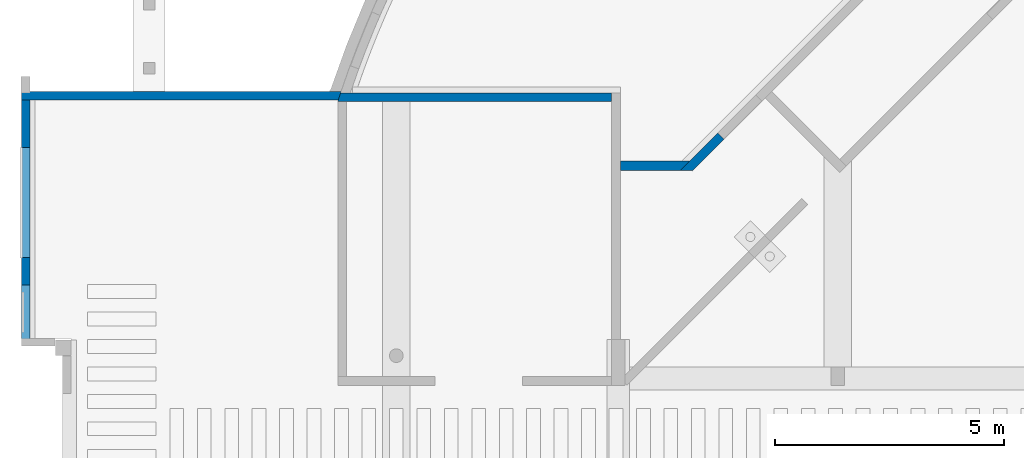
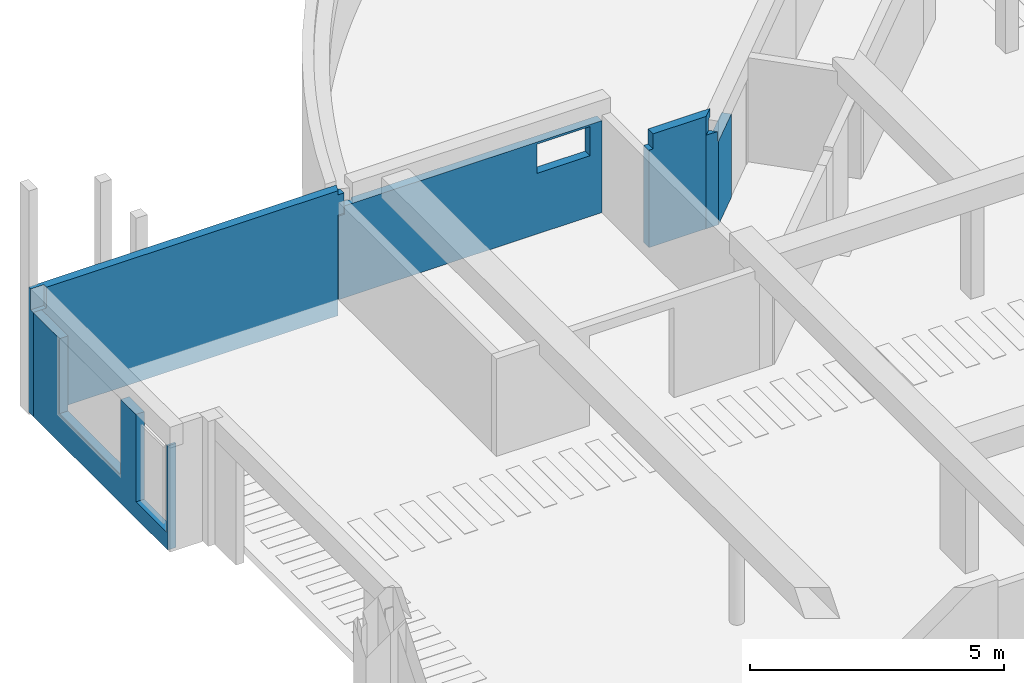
# One storey, part 9 of 12: 5 walls.
"""IFC4X3_ADD2 building model written with IfcOpenShell, lengths in millimetres."""

from ifc_helpers import new_model, si_unit, direction, frame, origin_with_axes, place, context, subcontext, project, spatial, polygons, element, save


model = new_model("IFC4X3_ADD2")

# Units and contexts
model_context = context("Model", 3, precision=1e-05, world=origin_with_axes(), true_north=direction((0.0, 1.0)))
body_context = subcontext(model_context, "Body", "Model", "MODEL_VIEW")
ifc_project = project(units=[si_unit("LENGTHUNIT", "METRE", prefix="MILLI"), si_unit("AREAUNIT", "SQUARE_METRE"), si_unit("VOLUMEUNIT", "CUBIC_METRE"), si_unit("PLANEANGLEUNIT", "RADIAN"), si_unit("TIMEUNIT", "SECOND"), si_unit("MASSUNIT", "GRAM")], contexts=[model_context])

# Site, building, storey
site_placement = place(None, origin_with_axes())
site = spatial("IfcSite", under=ifc_project, at=site_placement, Name="Site", CompositionType="ELEMENT")
building_placement = place(site_placement, origin_with_axes())
building = spatial("IfcBuilding", under=site, at=building_placement, Name="IFC Building Story")
storey_placement = place(building_placement, frame((0.0, 0.0, -5940.0), z_axis=(0.0, 0.0, 1.0), x_axis=(1.0, 0.0, 0.0)))
storey = spatial("IfcBuildingStorey", under=building, at=storey_placement, Name="K20", Elevation=-5940.0)

# Walls
wall_1_placement = place(storey_placement, frame((0.0, 0.0, 5940.0), z_axis=(0.0, 0.0, 1.0), x_axis=(1.0, 0.0, 0.0)))
element("IfcWall", 1, at=wall_1_placement, inside=storey, Name="Basic Wall:BB_XX_Wand uit beton, 200 mm", ObjectType="Basic Wall:BB_XX_Wand uit beton, 200 mm", PredefinedType="SOLIDWALL", context=body_context, shape_type="Tessellation", body=[
    polygons([(-36474.85587746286, 29820.98106649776, -5940.0), (-37095.83694396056, 29200.00000000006, -5940.0), (-37295.83694396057, 29000.00000000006, -5940.0), (-37295.83694396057, 29000.00000000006, -3694.1807480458), (-37170.39997949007, 29125.43696447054, -3694.1807480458), (-37170.39997949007, 29125.43696447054, -3930.0), (-37095.83694396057, 29200.00000000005, -3930.0), (-36474.85587746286, 29820.98106649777, -3930.0), (-37012.99423148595, 29000.00000000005, -5940.0), (-36333.43452122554, 29679.55971026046, -5940.0), (-36333.43452122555, 29679.55971026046, -3930.0), (-37012.99423148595, 29000.00000000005, -3930.0), (-37044.9630150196, 29000.00000000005, -3694.1807480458), (-37044.96301501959, 29000.00000000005, -3930.0)], [[[6, 7, 2]], [[2, 3, 4]], [[2, 4, 6]], [[4, 5, 6]], [[7, 8, 1]], [[7, 1, 2]], [[9, 10, 11, 12]], [[2, 1, 10]], [[2, 10, 9]], [[9, 3, 2]], [[5, 4, 13]], [[10, 1, 8, 11]], [[14, 13, 4]], [[14, 4, 3]], [[14, 3, 9]], [[9, 12, 14]], [[14, 6, 5, 13]], [[7, 6, 14]], [[7, 14, 12]], [[12, 11, 8]], [[12, 8, 7]]]),
])
wall_2_placement = place(storey_placement, frame((0.0, 0.0, 5940.0), z_axis=(0.0, 0.0, 1.0), x_axis=(1.0, 0.0, 0.0)))
element("IfcWall", 2, at=wall_2_placement, inside=storey, Name="Basic Wall:BB_XX_Wand uit beton, 200 mm", ObjectType="Basic Wall:BB_XX_Wand uit beton, 200 mm", PredefinedType="SOLIDWALL", context=body_context, shape_type="Tessellation", body=[
    polygons([(-37095.8369439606, 29200.0, -5940.0), (-38599.99999999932, 29200.0, -5940.0), (-38599.99999999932, 29200.0, -3600.0), (-38500.00000000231, 29200.0, -3600.0), (-38500.00000000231, 29200.0, -3240.0), (-37095.8369439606, 29200.0, -3240.0), (-37095.8369439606, 29200.0, -3440.0), (-37244.96301501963, 29200.0, -3440.0), (-37244.96301501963, 29200.0, -3930.0), (-37095.8369439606, 29200.0, -3930.0), (-38599.99999999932, 29000.0, -5940.0), (-37295.8369439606, 29000.0, -5940.0), (-37295.8369439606, 29000.0, -3694.1807480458), (-37295.8369439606, 29000.0, -3240.0), (-38500.00000000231, 29000.0, -3240.0), (-38500.00000000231, 29000.0, -3600.0), (-38599.99999999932, 29000.0, -3600.0), (-37170.39997949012, 29125.43696447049, -3930.0), (-37170.39997949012, 29125.43696447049, -3694.1807480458), (-37170.39997949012, 29125.43696447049, -3440.0)], [[[8, 4, 5]], [[8, 5, 6]], [[6, 7, 8]], [[9, 10, 1]], [[9, 1, 2]], [[9, 2, 4]], [[4, 8, 9]], [[2, 3, 4]], [[16, 17, 13]], [[13, 14, 15]], [[13, 15, 16]], [[17, 11, 12]], [[17, 12, 13]], [[2, 1, 12, 11]], [[14, 6, 5, 15]], [[18, 19, 13]], [[18, 13, 12]], [[18, 12, 1]], [[1, 10, 18]], [[20, 7, 6]], [[20, 6, 14]], [[14, 13, 19]], [[14, 19, 20]], [[4, 16, 15, 5]], [[16, 4, 3, 17]], [[19, 18, 9]], [[9, 8, 20]], [[9, 20, 19]], [[9, 18, 10]], [[20, 8, 7]], [[2, 11, 17, 3]]]),
])
wall_3_placement = place(storey_placement, frame((0.0, 0.0, 5940.0), z_axis=(0.0, 0.0, 1.0), x_axis=(1.0, 0.0, 0.0)))
element("IfcWall", 3, at=wall_3_placement, inside=storey, Name="Basic Wall:BB_XX_Wand uit beton, 190 mm", ObjectType="Basic Wall:BB_XX_Wand uit beton, 190 mm", PredefinedType="SOLIDWALL", context=body_context, shape_type="Tessellation", body=[
    polygons([(-51695.0, 30535.0, -3840.0), (-51695.0, 30535.0, -6340.0), (-51505.0, 30535.0, -6340.0), (-44768.92298046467, 30535.0, -6340.0), (-44768.92298046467, 30535.0, -5689.684691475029), (-44768.92298046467, 30535.0, -5135.0), (-44768.92298046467, 30535.0, -3930.00000000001), (-44632.30012915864, 30535.0, -3930.00000000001), (-44632.30012915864, 30535.0, -3440.0), (-44768.82005186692, 30535.0, -3440.0), (-44768.82005186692, 30535.0, -3340.0), (-51395.00000000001, 30535.0, -3340.0), (-51395.0, 30535.0, -3840.0), (-51505.0, 30535.0, -3840.0), (-51694.99999999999, 30639.99999999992, -3840.0), (-51395.0, 30639.99999999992, -3840.0), (-51395.0, 30639.99999999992, -3340.0), (-51695.0, 30639.99999999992, -3340.0), (-44715.48654387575, 30725.0, -3930.0), (-44706.09429526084, 30725.0, -3930.00000000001), (-44706.09429526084, 30725.0, -4580.31530852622), (-44706.09429526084, 30725.0, -5230.63061705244), (-44706.09429526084, 30725.0, -6340.0), (-51695.0, 30725.0, -6340.0), (-51695.0, 30725.0, -3340.0), (-44706.00390810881, 30725.0, -3340.0), (-44706.00390810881, 30725.0, -3440.0), (-44715.48654387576, 30725.0, -3440.0), (-44715.48654387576, 30724.99999999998, -3460.39462464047), (-44715.48654387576, 30724.99999999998, -3470.625), (-44715.48654387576, 30724.99999999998, -3485.9375), (-44715.48654387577, 30724.99999999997, -3501.25), (-44715.48654387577, 30724.99999999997, -3516.5625), (-44715.48654387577, 30724.99999999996, -3531.875), (-44715.48654387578, 30724.99999999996, -3547.1875), (-44715.48654387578, 30724.99999999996, -3562.5), (-44715.48654387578, 30724.99999999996, -3577.8125), (-44715.48654387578, 30724.99999999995, -3593.125), (-44715.48654387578, 30724.99999999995, -3608.4375), (-44715.48654387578, 30724.99999999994, -3623.75), (-44715.48654387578, 30724.99999999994, -3639.0625), (-44715.48654387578, 30724.99999999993, -3654.375), (-44715.48654387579, 30724.99999999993, -3669.6875), (-44715.48654387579, 30724.99999999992, -3685.0), (-44715.48654387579, 30724.99999999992, -3700.3125), (-44715.48654387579, 30724.99999999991, -3715.625), (-44715.48654387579, 30724.99999999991, -3730.9375), (-44715.48654387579, 30724.99999999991, -3746.25), (-44715.48654387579, 30724.99999999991, -3761.5625), (-44715.48654387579, 30724.9999999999, -3776.875), (-44715.48654387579, 30724.99999999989, -3792.1875), (-44715.48654387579, 30724.99999999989, -3807.5), (-44715.4865438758, 30724.99999999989, -3827.96075071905), (-44715.48654387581, 30724.99999999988, -3848.42150143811), (-44715.4865438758, 30724.99999999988, -3868.81612607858), (-44715.4865438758, 30724.99999999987, -3889.21075071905), (-44715.48654387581, 30724.99999999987, -3909.60537535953), (-44737.72272976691, 30630.07079533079, -6340.0), (-44716.14105802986, 30695.00000651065, -3930.00000000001), (-44712.13157862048, 30706.98948759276, -3930.00000000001), (-44708.11525168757, 30718.97674482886, -3930.00000000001), (-44632.30012915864, 30693.57277926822, -3930.00000000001), (-44742.68379495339, 30615.05010489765, -3930.00000000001), (-44708.03364687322, 30718.94940086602, -3440.0), (-44716.55722962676, 30721.80546434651, -3440.0), (-44716.02194669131, 30723.40275303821, -3440.0), (-44707.01899501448, 30721.9747734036, -3440.0), (-44737.62616416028, 30630.07081170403, -3340.0), (-44738.62759487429, 30627.04105315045, -3440.0), (-44632.30012915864, 30693.57277926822, -3440.0), (-44716.02194669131, 30723.4027530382, -3930.0), (-44716.55722962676, 30721.80546434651, -3930.0), (-44707.10498894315, 30721.9884447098, -3930.0), (-44733.10365571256, 30644.02382354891, -5623.973449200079), (-44736.90071934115, 30632.55614249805, -4905.472962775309), (-44716.5572296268, 30721.80546434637, -3909.60537535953), (-44716.5572296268, 30721.80546434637, -3889.0784985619), (-44716.5572296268, 30721.80546434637, -3868.61774784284), (-44716.5572296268, 30721.80546434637, -3848.15699712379), (-44716.5572296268, 30721.80546434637, -3827.69624640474), (-44716.5572296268, 30721.80546434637, -3807.23549568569), (-44716.5572296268, 30721.80546434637, -3786.77474496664), (-44716.5572296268, 30721.80546434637, -3766.31399424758), (-44716.5572296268, 30721.80546434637, -3745.91936960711), (-44716.5572296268, 30721.80546434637, -3725.52474496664), (-44716.5572296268, 30721.80546434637, -3705.13012032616), (-44716.5572296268, 30721.80546434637, -3684.73549568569), (-44716.5572296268, 30721.80546434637, -3664.34087104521), (-44716.5572296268, 30721.80546434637, -3643.94624640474), (-44716.5572296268, 30721.80546434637, -3623.55162176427), (-44716.5572296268, 30721.80546434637, -3603.15699712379), (-44716.5572296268, 30721.80546434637, -3582.76237248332), (-44716.5572296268, 30721.80546434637, -3562.36774784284), (-44716.5572296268, 30721.80546434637, -3541.97312320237), (-44716.5572296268, 30721.80546434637, -3521.5784985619), (-44716.5572296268, 30721.80546434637, -3501.18387392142), (-44716.5572296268, 30721.80546434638, -3480.78924928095), (-44716.5572296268, 30721.80546434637, -3460.39462464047), (-44716.01823927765, 30723.41381459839, -3677.34375), (-44716.00063788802, 30723.46633041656, -3664.87491760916), (-44716.00054227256, 30723.46661569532, -3481.13170511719), (-44716.02194692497, 30723.40275234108, -3465.50981232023), (-44716.02100779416, 30723.40555436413, -3493.59375), (-44716.02692303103, 30723.38790543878, -3817.46587104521), (-44716.02692303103, 30723.38790543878, -3858.38737248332), (-44716.02676476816, 30723.38837763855, -3753.90625), (-44716.08478021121, 30723.21527798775, -3551.04840730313), (-44716.02384962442, 30723.39707537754, -3570.15625), (-44716.08872350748, 30723.20351227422, -3734.85321508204), (-44716.08873430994, 30723.2034800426, -3796.10428635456), (-44716.01575976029, 30723.42121255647, -3782.16033998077), (-44716.01689178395, 30723.41783501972, -3537.19276644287), (-44716.01651467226, 30723.41896018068, -3598.43165196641), (-44716.08607681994, 30723.21140926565, -3612.3161503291), (-44716.01577070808, 30723.42117989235, -3720.9097463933), (-44715.97383661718, 30723.54629433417, -3524.21874999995), (-44715.97416596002, 30723.5453117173, -3585.46874999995), (-44715.97520286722, 30723.54221803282, -3769.21874999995), (-44716.02263829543, 30723.40068954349, -3506.82898613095), (-44715.97484908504, 30723.54327356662, -3707.96874999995), (-44716.0247980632, 30723.39424557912, -3690.65362377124), (-44716.02445941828, 30723.39525597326, -3899.34193696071), (-44716.02194692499, 30723.40275234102, -3916.28027964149), (-44716.01697080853, 30723.41759923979, -3838.19112607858), (-44716.01945072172, 30723.41020009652, -3879.01343839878), (-44716.02216153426, 30723.40211202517, -3624.23149223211), (-44716.04315713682, 30723.33946849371, -3639.17318584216), (-44716.06974628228, 30723.26013490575, -3651.62086251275), (-44716.09526302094, 30723.18400011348, -3452.75490582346)], [[[10, 11, 7]], [[7, 8, 9]], [[7, 9, 10]], [[13, 14, 3]], [[7, 11, 12]], [[7, 12, 13]], [[13, 3, 6]], [[13, 6, 7]], [[3, 5, 6]], [[3, 4, 5]], [[14, 1, 2]], [[14, 2, 3]], [[15, 16, 17, 18]], [[22, 23, 19]], [[19, 21, 22]], [[19, 20, 21]], [[19, 23, 24]], [[19, 24, 25]], [[25, 57, 19]], [[25, 56, 57]], [[25, 55, 56]], [[25, 54, 55]], [[25, 53, 54]], [[25, 52, 53]], [[25, 51, 52]], [[25, 50, 51]], [[25, 49, 50]], [[25, 48, 49]], [[25, 47, 48]], [[25, 46, 47]], [[25, 45, 46]], [[25, 44, 45]], [[25, 43, 44]], [[25, 42, 43]], [[25, 41, 42]], [[25, 40, 41]], [[25, 39, 40]], [[25, 38, 39]], [[25, 37, 38]], [[25, 36, 37]], [[25, 35, 36]], [[25, 34, 35]], [[25, 33, 34]], [[25, 32, 33]], [[25, 31, 32]], [[25, 30, 31]], [[25, 29, 30]], [[25, 28, 29]], [[25, 26, 28]], [[26, 27, 28]], [[3, 2, 24]], [[58, 4, 3]], [[58, 3, 24]], [[24, 23, 58]], [[60, 61, 62]], [[62, 59, 60]], [[63, 59, 62]], [[62, 8, 7]], [[62, 7, 63]], [[66, 28, 27]], [[66, 27, 67]], [[67, 64, 65]], [[67, 65, 66]], [[68, 26, 25]], [[17, 12, 11]], [[17, 11, 68]], [[68, 25, 17]], [[25, 18, 17]], [[14, 13, 16]], [[16, 15, 1]], [[16, 1, 14]], [[69, 10, 9]], [[69, 9, 70]], [[70, 64, 69]], [[71, 72, 61]], [[71, 61, 73]], [[73, 20, 19]], [[73, 19, 71]], [[12, 17, 16, 13]], [[15, 18, 25]], [[15, 25, 24]], [[24, 2, 1]], [[24, 1, 15]], [[5, 74, 6]], [[21, 73, 61]], [[21, 20, 73]], [[5, 4, 58]], [[23, 74, 58]], [[7, 6, 75]], [[60, 21, 61]], [[74, 75, 6]], [[58, 74, 5]], [[7, 75, 63]], [[75, 59, 63]], [[21, 60, 59]], [[59, 75, 21]], [[22, 74, 23]], [[75, 22, 21]], [[22, 75, 74]], [[9, 8, 62, 70]], [[26, 64, 67]], [[67, 27, 26]], [[26, 68, 64]], [[11, 10, 69]], [[69, 68, 11]], [[64, 68, 69]], [[64, 70, 62]], [[64, 62, 61]], [[98, 65, 64]], [[64, 97, 98]], [[64, 96, 97]], [[64, 95, 96]], [[64, 94, 95]], [[64, 93, 94]], [[64, 92, 93]], [[64, 91, 92]], [[64, 90, 91]], [[64, 89, 90]], [[64, 88, 89]], [[64, 87, 88]], [[64, 86, 87]], [[64, 85, 86]], [[64, 84, 85]], [[64, 83, 84]], [[64, 82, 83]], [[64, 81, 82]], [[64, 80, 81]], [[64, 61, 80]], [[61, 79, 80]], [[61, 78, 79]], [[61, 77, 78]], [[61, 76, 77]], [[61, 72, 76]], [[99, 100, 88]], [[101, 102, 97, 103]], [[81, 80, 104]], [[78, 105, 79]], [[106, 84, 83]], [[107, 108, 36]], [[106, 48, 109]], [[110, 104, 52]], [[111, 110, 51]], [[35, 112, 107]], [[113, 114, 39]], [[115, 109, 47]], [[31, 30, 101]], [[34, 116, 112]], [[37, 108, 117]], [[100, 43, 42]], [[49, 106, 118]], [[111, 118, 83]], [[95, 116, 119]], [[115, 120, 86]], [[121, 120, 45]], [[116, 33, 119]], [[113, 38, 117]], [[115, 46, 120]], [[111, 50, 118]], [[123, 71, 19]], [[123, 19, 57]], [[57, 56, 122]], [[57, 122, 123]], [[105, 125, 55]], [[105, 55, 54]], [[54, 124, 105]], [[125, 122, 56]], [[125, 56, 55]], [[102, 30, 29]], [[32, 31, 103]], [[32, 103, 119]], [[119, 33, 32]], [[104, 124, 53, 52]], [[36, 108, 37]], [[44, 43, 99]], [[44, 99, 121]], [[121, 45, 44]], [[49, 48, 106]], [[40, 126, 41]], [[91, 114, 113]], [[109, 115, 85]], [[112, 94, 107]], [[111, 82, 110]], [[125, 105, 78]], [[125, 78, 77]], [[77, 122, 125]], [[77, 76, 123]], [[77, 123, 122]], [[76, 72, 71]], [[76, 71, 123]], [[124, 104, 80]], [[124, 80, 79]], [[79, 105, 124]], [[102, 98, 97]], [[86, 85, 115]], [[82, 111, 83]], [[92, 91, 113]], [[87, 86, 121]], [[121, 99, 88]], [[121, 88, 87]], [[96, 95, 119]], [[119, 103, 97]], [[119, 97, 96]], [[112, 95, 94]], [[108, 93, 92]], [[126, 90, 127]], [[109, 84, 106]], [[89, 128, 127]], [[81, 104, 110]], [[38, 37, 117]], [[116, 34, 33]], [[120, 46, 45]], [[118, 50, 49]], [[42, 128, 100]], [[129, 102, 29]], [[113, 117, 92]], [[112, 116, 95]], [[41, 128, 42]], [[129, 29, 28]], [[65, 129, 66]], [[101, 103, 31]], [[124, 54, 53]], [[102, 101, 30]], [[35, 34, 112]], [[39, 38, 113]], [[99, 43, 100]], [[47, 46, 115]], [[51, 50, 111]], [[98, 102, 129]], [[98, 129, 65]], [[28, 66, 129]], [[35, 107, 36]], [[39, 114, 40]], [[47, 109, 48]], [[51, 110, 52]], [[107, 94, 93]], [[114, 91, 90]], [[107, 93, 108]], [[127, 90, 89]], [[92, 117, 108]], [[86, 120, 121]], [[83, 118, 106]], [[114, 126, 40]], [[89, 88, 128]], [[109, 85, 84]], [[110, 82, 81]], [[100, 128, 88]], [[127, 128, 41, 126]], [[114, 90, 126]]]),
])
wall_4_placement = place(storey_placement, frame((0.0, 0.0, 5940.0), z_axis=(0.0, 0.0, 1.0), x_axis=(1.0, 0.0, 0.0)))
element("IfcWall", 4, at=wall_4_placement, inside=storey, Name="Basic Wall:BB_XX_Wand uit beton, 190 mm", ObjectType="Basic Wall:BB_XX_Wand uit beton, 190 mm", PredefinedType="SOLIDWALL", context=body_context, shape_type="Tessellation", body=[
    polygons([(-38800.0, 30695.0, -5940.0), (-44716.14106020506, 30695.0, -5940.0), (-44716.14106020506, 30695.0, -5230.630617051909), (-44716.14106020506, 30695.0, -4580.31530852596), (-44716.14106020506, 30695.0, -3930.00000000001), (-44642.34084718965, 30695.0, -3930.00000000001), (-44642.34084718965, 30695.0, -3730.0), (-44636.55950017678, 30695.0, -3730.0), (-44636.5595001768, 30695.0, -3930.0), (-44505.16692087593, 30695.0, -3930.0), (-44387.90324325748, 30695.0, -3930.0), (-44387.90324325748, 30695.0, -3730.0), (-38800.0, 30695.0, -3730.0), (-39067.36562169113, 30695.0, -4480.0), (-39067.36562169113, 30695.0, -3780.0), (-40267.36562169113, 30695.0, -3780.0), (-40267.36562169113, 30695.0, -4480.0), (-44642.34084718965, 30505.0, -3930.00000000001), (-44778.66995163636, 30505.0, -3930.00000000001), (-44778.66995163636, 30505.0, -4580.31530852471), (-44778.66995163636, 30505.0, -5230.630617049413), (-44778.66995163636, 30505.0, -5940.0), (-38800.0, 30505.0, -5940.0), (-38800.0, 30505.0, -3730.0), (-43200.00000000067, 30505.0, -3730.0), (-43800.00000000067, 30505.0, -3730.0), (-44642.34084718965, 30505.0, -3730.0), (-40267.36562169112, 30505.0, -4480.0), (-40267.36562169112, 30505.0, -3780.0), (-39067.36562169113, 30505.0, -3780.0), (-39067.36562169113, 30505.0, -4480.0), (-44413.13774089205, 30620.1363251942, -3730.0), (-44413.13774089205, 30620.1363251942, -3930.0), (-44400.55403840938, 30657.57947014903, -3730.0), (-44400.55391458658, 30657.57983749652, -3930.0), (-44773.80178158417, 30520.00177053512, -3930.00000000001), (-44742.68381393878, 30615.05004734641, -3930.00000000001), (-44768.92298046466, 30535.0, -3930.00000000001), (-44747.61949734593, 30600.07042445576, -5940.0), (-44747.61949734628, 30600.07042445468, -4905.47296280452)], [[[6, 7, 8]], [[6, 8, 9]], [[16, 11, 12]], [[12, 13, 16]], [[13, 15, 16]], [[13, 14, 15]], [[14, 13, 1]], [[1, 17, 14]], [[17, 1, 4]], [[17, 4, 11]], [[11, 16, 17]], [[4, 10, 11]], [[4, 9, 10]], [[4, 6, 9]], [[4, 5, 6]], [[1, 3, 4]], [[1, 2, 3]], [[18, 19, 20]], [[21, 22, 26]], [[26, 18, 20]], [[26, 20, 21]], [[26, 27, 18]], [[22, 25, 26]], [[31, 28, 23]], [[23, 24, 31]], [[24, 30, 31]], [[24, 29, 30]], [[29, 24, 25]], [[25, 28, 29]], [[25, 22, 23]], [[25, 23, 28]], [[24, 23, 1, 13]], [[17, 16, 29, 28]], [[32, 33, 9, 8]], [[33, 32, 34, 35]], [[35, 34, 12, 11]], [[35, 11, 10]], [[10, 9, 33]], [[10, 33, 35]], [[25, 24, 13]], [[25, 13, 12]], [[32, 8, 7]], [[32, 7, 27]], [[32, 27, 26]], [[26, 34, 32]], [[26, 25, 12]], [[26, 12, 34]], [[36, 19, 18]], [[38, 36, 18]], [[18, 6, 37]], [[18, 37, 38]], [[6, 5, 37]], [[14, 17, 28, 31]], [[3, 2, 39]], [[3, 39, 40]], [[40, 4, 3]], [[40, 20, 38]], [[37, 4, 40]], [[21, 20, 40]], [[40, 39, 22]], [[40, 22, 21]], [[38, 20, 36]], [[38, 37, 40]], [[19, 36, 20]], [[4, 37, 5]], [[39, 2, 1]], [[39, 1, 23]], [[23, 22, 39]], [[16, 15, 30, 29]], [[7, 6, 18, 27]], [[15, 14, 31, 30]]]),
])
wall_5_placement = place(storey_placement, frame((0.0, 0.0, 5940.0), z_axis=(0.0, 0.0, 1.0), x_axis=(1.0, 0.0, 0.0)))
element("IfcWall", 5, at=wall_5_placement, inside=storey, Name="Basic Wall:BB_XX_Wand uit beton, 190 mm", ObjectType="Basic Wall:BB_XX_Wand uit beton, 190 mm", PredefinedType="SOLIDWALL", context=body_context, shape_type="Tessellation", body=[
    polygons([(-51504.99999999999, 25245.0, -6340.0), (-51504.99999999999, 30535.00000000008, -6340.0), (-51504.99999999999, 30535.00000000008, -3840.0), (-51504.99999999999, 29495.0, -3840.0), (-51504.99999999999, 29495.0, -5640.0), (-51504.99999999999, 27095.00000000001, -5640.0), (-51504.99999999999, 27095.00000000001, -3840.0), (-51504.99999999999, 26495.00000000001, -3840.0), (-51504.99999999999, 26495.00000000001, -5940.0), (-51504.99999999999, 25295.0, -5940.0), (-51504.99999999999, 25295.0, -3840.0), (-51504.99999999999, 25245.0, -3840.0), (-51694.99999999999, 25245.0, -6340.0), (-51694.99999999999, 25245.0, -3840.0), (-51694.99999999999, 25295.0, -3840.0), (-51694.99999999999, 25295.0, -5940.0), (-51694.99999999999, 26495.00000000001, -5940.0), (-51694.99999999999, 26495.00000000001, -3840.0), (-51694.99999999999, 27095.00000000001, -3840.0), (-51694.99999999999, 27095.00000000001, -5640.0), (-51694.99999999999, 29495.0, -5640.0), (-51694.99999999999, 29495.0, -3840.0), (-51694.99999999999, 30535.00000000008, -3840.0), (-51694.99999999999, 30535.00000000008, -6340.0)], [[[6, 7, 8]], [[6, 8, 9]], [[10, 11, 12]], [[10, 12, 1]], [[1, 9, 10]], [[9, 1, 2]], [[2, 5, 6]], [[2, 6, 9]], [[2, 3, 4]], [[2, 4, 5]], [[21, 22, 23]], [[21, 23, 24]], [[24, 17, 20]], [[24, 20, 21]], [[17, 18, 19]], [[17, 19, 20]], [[24, 13, 17]], [[13, 16, 17]], [[13, 14, 15]], [[13, 15, 16]], [[3, 2, 24, 23]], [[2, 1, 13, 24]], [[4, 3, 23, 22]], [[1, 12, 14, 13]], [[5, 4, 22, 21]], [[6, 5, 21, 20]], [[7, 6, 20, 19]], [[8, 7, 19, 18]], [[9, 8, 18, 17]], [[10, 9, 17, 16]], [[11, 10, 16, 15]], [[12, 11, 15, 14]]]),
])

save(model, "model.ifc")
